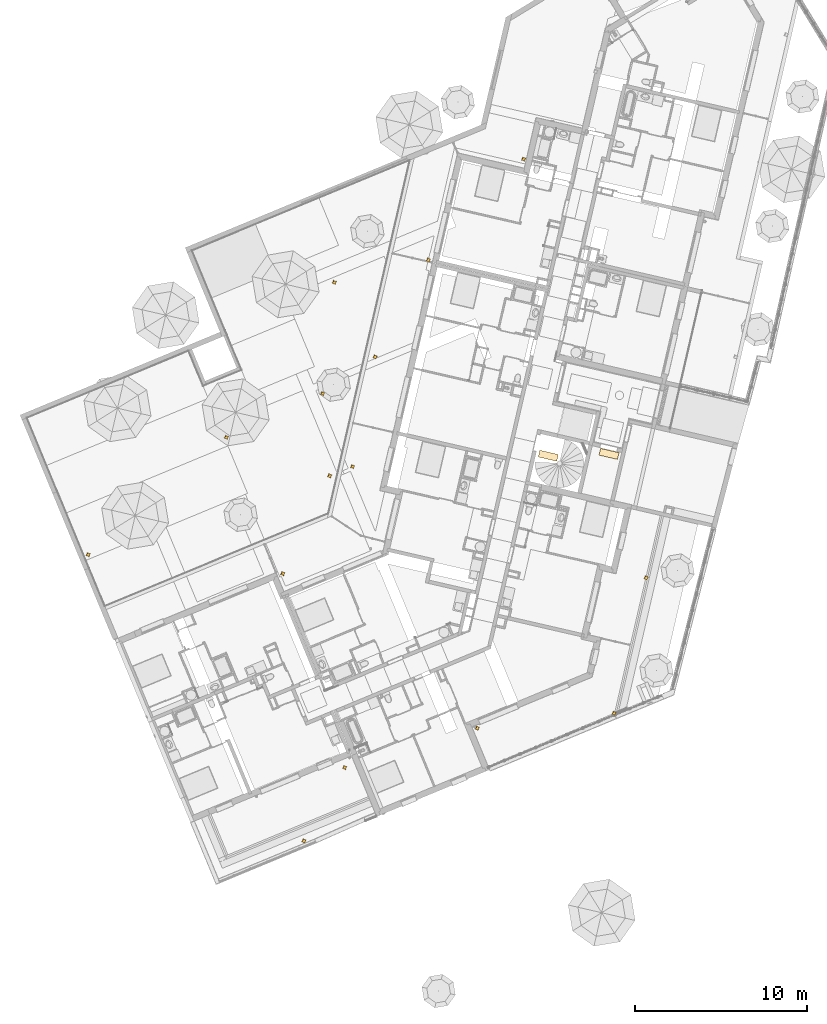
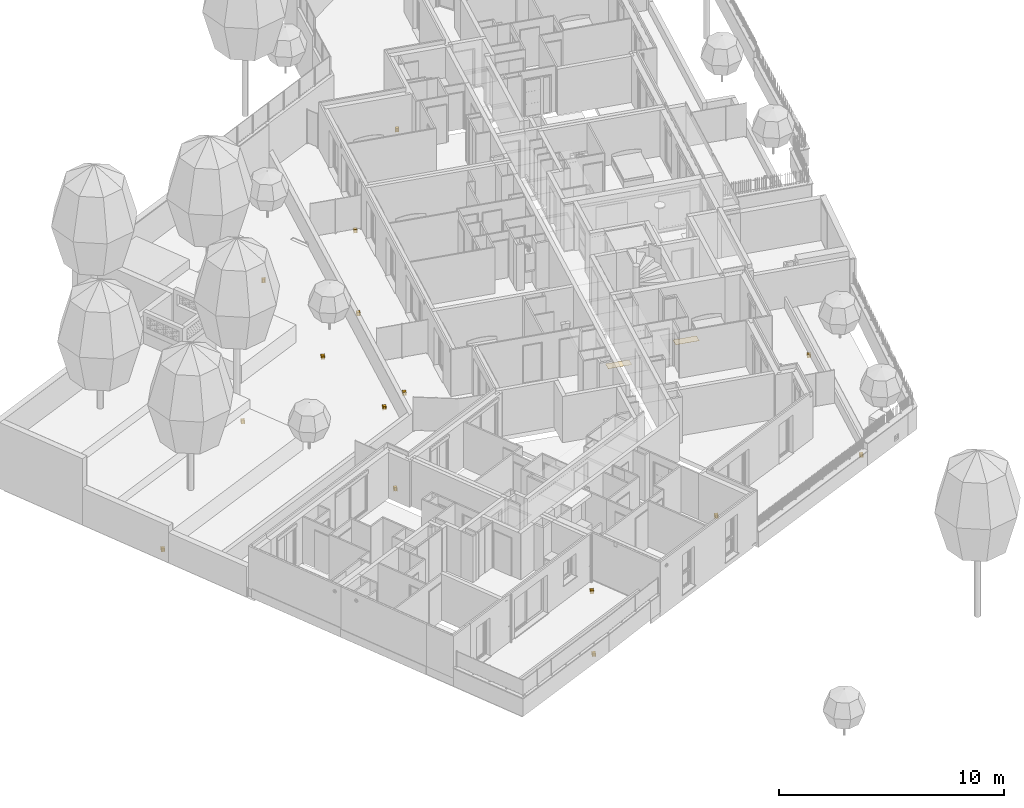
# One storey, part 66 of 119: 17 coverings.
"""IFC2X3 building model written with IfcOpenShell, lengths in metres."""

from ifc_helpers import new_model, entity, si_unit, converted_unit, derived_unit, money_unit, direction, frame, origin_with_axes, place, context, subcontext, project, spatial, faceted_brep, source, transform, mapped, material, type_object, element, save


model = new_model("IFC2X3")

# Units and contexts
model_context = context("Model", 3, precision=1e-05, world=origin_with_axes(), true_north=direction((0.0, 1.0)))
body_context = subcontext(model_context, "Body", "Model", "MODEL_VIEW")
ifc_project = project(units=[si_unit("LENGTHUNIT", "METRE"), si_unit("AREAUNIT", "SQUARE_METRE"), si_unit("VOLUMEUNIT", "CUBIC_METRE"), converted_unit("PLANEANGLEUNIT", "DEGREE", entity("IfcPlaneAngleMeasure", 0.0174532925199), si_unit("PLANEANGLEUNIT", "RADIAN"), dimensions=[0, 0, 0, 0, 0, 0, 0]), si_unit("SOLIDANGLEUNIT", "STERADIAN"), money_unit("EUR"), converted_unit("TIMEUNIT", "Year", entity("IfcTimeMeasure", 31556926.0), si_unit("TIMEUNIT", "SECOND"), dimensions=[0, 0, 1, 0, 0, 0, 0]), si_unit("MASSUNIT", "GRAM", prefix="KILO"), si_unit("THERMODYNAMICTEMPERATUREUNIT", "DEGREE_CELSIUS"), si_unit("LUMINOUSINTENSITYUNIT", "LUMEN"), si_unit("ENERGYUNIT", "JOULE", prefix="MEGA"), derived_unit("THERMALCONDUCTANCEUNIT", [(si_unit("POWERUNIT", "WATT"), 1), (si_unit("LENGTHUNIT", "METRE"), -1), (si_unit("THERMODYNAMICTEMPERATUREUNIT", "KELVIN"), -1)]), derived_unit("SPECIFICHEATCAPACITYUNIT", [(si_unit("ENERGYUNIT", "JOULE"), 1), (si_unit("MASSUNIT", "GRAM", prefix="KILO"), -1), (si_unit("THERMODYNAMICTEMPERATUREUNIT", "KELVIN"), -1)]), derived_unit("MASSDENSITYUNIT", [(si_unit("MASSUNIT", "GRAM", prefix="KILO"), 1), (si_unit("VOLUMEUNIT", "CUBIC_METRE"), -1)])], contexts=[model_context])

# Site, building, storey
site_placement = place(None, origin_with_axes())
site = spatial("IfcSite", under=ifc_project, at=site_placement, Name="Site", CompositionType="ELEMENT")
building_placement = place(site_placement, origin_with_axes())
building = spatial("IfcBuilding", under=site, at=building_placement, Name="Bâtiment", CompositionType="ELEMENT")
storey_placement = place(building_placement, origin_with_axes())
storey = spatial("IfcBuildingStorey", under=building, at=storey_placement, Name="Rez-de-chaussée", CompositionType="ELEMENT", Elevation=0.0)

# Coverings
ifc_material_1 = material(Name="Volume - Etude")
covering_type_1 = type_object("IfcCoveringType", Name="Evacuation EP terrasse", PredefinedType="FLOORING")
shared_shape_1 = source(origin_with_axes(), body_context, "Body", "Brep", [
    faceted_brep([(0.0522327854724, 0.0878658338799, 0.2), (0.0522327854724, 0.0878658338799, 0.0), (0.058702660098, 0.0767838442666, 0.0), (0.058702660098, 0.0767838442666, 0.2), (0.0477467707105, 0.0998885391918, 0.2), (0.0477467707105, 0.0998885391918, 0.0), (0.045375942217, 0.1125, 0.0), (0.0, 0.1125, 0.0), (0.0, 0.1275, 0.0), (0.045375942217, 0.1275, 0.0), (0.0477467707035, 0.140111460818, 0.0), (0.0522327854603, 0.15213416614, 0.0), (0.0587026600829, 0.163216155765, 0.0), (0.066966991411, 0.173033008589, 0.0), (0.0767838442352, 0.181297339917, 0.0), (0.0878658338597, 0.18776721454, 0.0), (0.0998885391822, 0.192253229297, 0.0), (0.1125, 0.194624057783, 0.0), (0.1125, 0.24, 0.0), (0.1275, 0.24, 0.0), (0.1275, 0.194624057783, 0.0), (0.140111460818, 0.192253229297, 0.0), (0.15213416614, 0.18776721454, 0.0), (0.163216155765, 0.181297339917, 0.0), (0.173033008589, 0.173033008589, 0.0), (0.181297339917, 0.163216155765, 0.0), (0.18776721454, 0.15213416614, 0.0), (0.192253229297, 0.140111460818, 0.0), (0.194624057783, 0.1275, 0.0), (0.24, 0.1275, 0.0), (0.24, 0.1125, 0.0), (0.194624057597, 0.1125, 0.0), (0.192253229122, 0.099888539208, 0.0), (0.187767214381, 0.0878658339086, 0.0), (0.181297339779, 0.0767838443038, 0.0), (0.173033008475, 0.0669669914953, 0.0), (0.163216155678, 0.058702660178, 0.0), (0.152134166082, 0.0522327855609, 0.0), (0.140111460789, 0.0477467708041, 0.0), (0.1275, 0.045375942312, 0.0), (0.1275, 0.0, 0.0), (0.1125, 0.0, 0.0), (0.1125, 0.0453759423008, 0.0), (0.0998885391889, 0.0477467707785, 0.0), (0.0878658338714, 0.0522327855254, 0.0), (0.07678384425, 0.0587026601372, 0.0), (0.066966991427, 0.066966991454, 0.0), (0.066966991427, 0.066966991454, 0.2), (0.07678384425, 0.0587026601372, 0.2), (0.0878658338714, 0.0522327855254, 0.2), (0.0998885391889, 0.0477467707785, 0.2), (0.1125, 0.0453759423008, 0.2), (0.1125, 0.0, 0.2), (0.1275, 0.0, 0.2), (0.1275, 0.045375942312, 0.2), (0.140111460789, 0.0477467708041, 0.2), (0.152134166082, 0.0522327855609, 0.2), (0.163216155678, 0.058702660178, 0.2), (0.173033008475, 0.0669669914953, 0.2), (0.181297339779, 0.0767838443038, 0.2), (0.187767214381, 0.0878658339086, 0.2), (0.192253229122, 0.099888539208, 0.2), (0.194624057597, 0.1125, 0.2), (0.24, 0.1125, 0.2), (0.24, 0.1275, 0.2), (0.194624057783, 0.1275, 0.2), (0.192253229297, 0.140111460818, 0.2), (0.18776721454, 0.15213416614, 0.2), (0.181297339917, 0.163216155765, 0.2), (0.173033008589, 0.173033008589, 0.2), (0.163216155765, 0.181297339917, 0.2), (0.15213416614, 0.18776721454, 0.2), (0.140111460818, 0.192253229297, 0.2), (0.1275, 0.194624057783, 0.2), (0.1275, 0.24, 0.2), (0.1125, 0.24, 0.2), (0.1125, 0.194624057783, 0.2), (0.0998885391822, 0.192253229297, 0.2), (0.0878658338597, 0.18776721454, 0.2), (0.0767838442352, 0.181297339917, 0.2), (0.066966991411, 0.173033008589, 0.2), (0.0587026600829, 0.163216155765, 0.2), (0.0522327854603, 0.15213416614, 0.2), (0.0477467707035, 0.140111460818, 0.2), (0.045375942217, 0.1275, 0.2), (0.0, 0.1275, 0.2), (0.0, 0.1125, 0.2), (0.045375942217, 0.1125, 0.2)], [[[0, 1, 2, 3]], [[4, 5, 1, 0]], [[1, 5, 6, 7, 8, 9, 10, 11, 12, 13, 14, 15, 16, 17, 18, 19, 20, 21, 22, 23, 24, 25, 26, 27, 28, 29, 30, 31, 32, 33, 34, 35, 36, 37, 38, 39, 40, 41, 42, 43, 44, 45, 46, 2]], [[46, 47, 3, 2]], [[4, 0, 3, 47, 48, 49, 50, 51, 52, 53, 54, 55, 56, 57, 58, 59, 60, 61, 62, 63, 64, 65, 66, 67, 68, 69, 70, 71, 72, 73, 74, 75, 76, 77, 78, 79, 80, 81, 82, 83, 84, 85, 86, 87]], [[5, 4, 87, 6]], [[87, 86, 7, 6]], [[86, 85, 8, 7]], [[9, 8, 85, 84]], [[9, 84, 83, 10]], [[82, 11, 10, 83]], [[11, 82, 81, 12]], [[12, 81, 80, 13]], [[13, 80, 79, 14]], [[14, 79, 78, 15]], [[15, 78, 77, 16]], [[16, 77, 76, 17]], [[76, 75, 18, 17]], [[75, 74, 19, 18]], [[73, 20, 19, 74]], [[72, 21, 20, 73]], [[21, 72, 71, 22]], [[22, 71, 70, 23]], [[23, 70, 69, 24]], [[24, 69, 68, 25]], [[67, 26, 25, 68]], [[66, 27, 26, 67]], [[66, 65, 28, 27]], [[29, 28, 65, 64]], [[64, 63, 30, 29]], [[62, 31, 30, 63]], [[61, 32, 31, 62]], [[60, 33, 32, 61]], [[59, 34, 33, 60]], [[58, 35, 34, 59]], [[57, 36, 35, 58]], [[56, 37, 36, 57]], [[55, 38, 37, 56]], [[39, 38, 55, 54]], [[53, 40, 39, 54]], [[52, 41, 40, 53]], [[51, 42, 41, 52]], [[42, 51, 50, 43]], [[49, 44, 43, 50]], [[44, 49, 48, 45]], [[47, 46, 45, 48]]]),
])
for number, where, z_axis, x_axis, name in (
    (1, (-24.554821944, -29.5887545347, 0.0), (0.0, 0.0, 1.0), (0.383112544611, -0.923701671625, 0.0), "MOB-004"),
    (2, (-21.721288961, -7.81409837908, 0.0), (0.0, 0.0, 1.0), (0.383112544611, -0.923701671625, 0.0), "MOB-004"),
    (3, (-22.7750884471, 2.90773639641, 0.0), (0.0, 0.0, 1.0), (0.383112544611, -0.923701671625, 0.0), "MOB-004"),
    (4, (-20.4104067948, -1.42698283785, 0.0), (0.0, 0.0, 1.0), (0.383112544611, -0.923701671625, 0.0), "MOB-004"),
    (5, (-14.462975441, -23.0283377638, 0.0), (0.0, 0.0, 1.0), (0.383112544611, -0.923701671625, 0.0), "MOB-004"),
    (6, (-17.3129726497, 4.20948469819, 0.0), (0.0, 0.0, 1.0), (0.383112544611, -0.923701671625, 0.0), "MOB-004"),
    (7, (-29.0577854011, -6.10705309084, 0.0), (0.0, 0.0, 1.0), (0.383112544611, -0.923701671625, 0.0), "MOB-004"),
    (8, (-25.7804173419, -14.0407547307, 0.0), (0.0, 0.0, 1.0), (0.383112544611, -0.923701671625, 0.0), "MOB-004"),
    (9, (-23.0505610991, -8.34650513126, 0.0), (0.0, 0.0, 1.0), (0.383112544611, -0.923701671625, 0.0), "MOB-004"),
    (10, (-23.4658835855, -3.56723048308, 0.0), (0.0, 0.0, 1.0), (0.383112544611, -0.923701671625, 0.0), "MOB-004"),
    (11, (-11.7699206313, 10.0759238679, 0.0), (0.0, 0.0, 1.0), (0.383112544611, -0.923701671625, 0.0), "MOB-004"),
    (12, (-4.64371563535, -14.2817074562, 0.0), (0.0, 0.0, 1.0), (0.383112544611, -0.923701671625, 0.0), "MOB-004"),
    (13, (-6.50661842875, -22.1604978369, 0.0), (0.0, 0.0, 1.0), (0.383112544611, -0.923701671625, 0.0), "MOB-004"),
    (14, (-22.181632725, -25.322539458, 0.0), (0.0, 0.0, 1.0), (0.383112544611, -0.923701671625, 0.0), "MOB-004"),
    (15, (-37.1016623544, -12.9368345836, 0.0), (0.0, 0.0, 1.0), (0.383112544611, -0.923701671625, 0.0), "MOB-004"),
):
    element("IfcCovering", number, at=place(storey_placement, frame(where, z_axis=z_axis, x_axis=x_axis)), inside=storey, type_object=covering_type_1, material=ifc_material_1, Name=name, PredefinedType="FLOORING", context=body_context, shape_type="MappedRepresentation", body=[
        mapped(shared_shape_1, transform((0.0, 0.0, 0.0))),
    ])
ifc_material_2 = material(Name="Plastique - PVC")
covering_type_2 = type_object("IfcCoveringType", Name="Bande Podotactile", PredefinedType="FLOORING")
shared_shape_2 = source(origin_with_axes(), body_context, "Body", "Brep", [
    faceted_brep([(0.0, 0.4, 0.0), (0.0, 0.0, 0.0), (0.0, 0.0, 0.005), (0.0, 0.4, 0.005), (1.1, 0.4, 0.0), (1.1, 0.0, 0.0), (1.1, 0.0, 0.005), (1.1, 0.4, 0.005)], [[[0, 1, 2, 3]], [[0, 4, 5, 1]], [[1, 5, 6, 2]], [[3, 2, 6, 7]], [[4, 0, 3, 7]], [[5, 4, 7, 6]]]),
])
for number, where, z_axis, x_axis, name in (
    (16, (-9.5945363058, -7.17482237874, -2.72), (0.0, 0.0, 1.0), (-0.974387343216, 0.224876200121, 0.0), "Bande podotactile"),
    (17, (-6.06193382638, -7.06907752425, -2.72), (0.0, 0.0, 1.0), (-0.974387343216, 0.224876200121, 0.0), "Bande podotactile"),
):
    element("IfcCovering", number, at=place(storey_placement, frame(where, z_axis=z_axis, x_axis=x_axis)), inside=storey, type_object=covering_type_2, material=ifc_material_2, Name=name, PredefinedType="FLOORING", context=body_context, shape_type="MappedRepresentation", body=[
        mapped(shared_shape_2, transform((0.0, 0.0, 0.0))),
    ])

save(model, "model.ifc")
